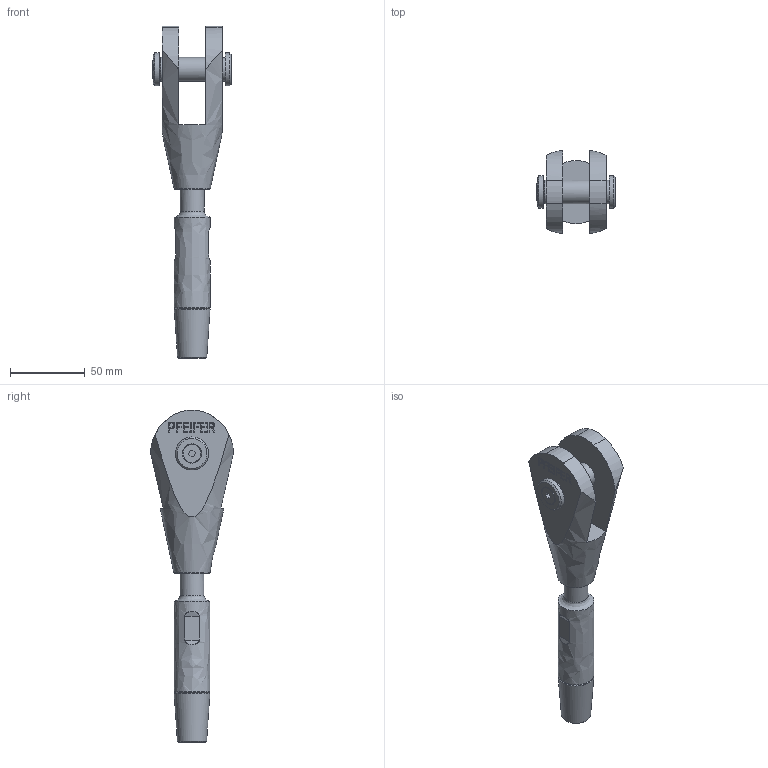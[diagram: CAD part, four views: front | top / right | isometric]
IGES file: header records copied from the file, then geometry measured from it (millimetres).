
Global section: file name: 520-016-GAK-ADA; native system: Autodesk Inventor 2016; preprocessor: unknown; author: Administrator; date: 20200703.130451; units: centimetre
Bounding box: 52.21 x 55.15 x 221.5 mm (x, y, z)
Volume: 141305 mm3; surface area: 34354.2 mm2
Topology: 2 solids, 3 shells, 197 faces, 518 edges, 348 vertices
Faces by surface type: bspline 197
